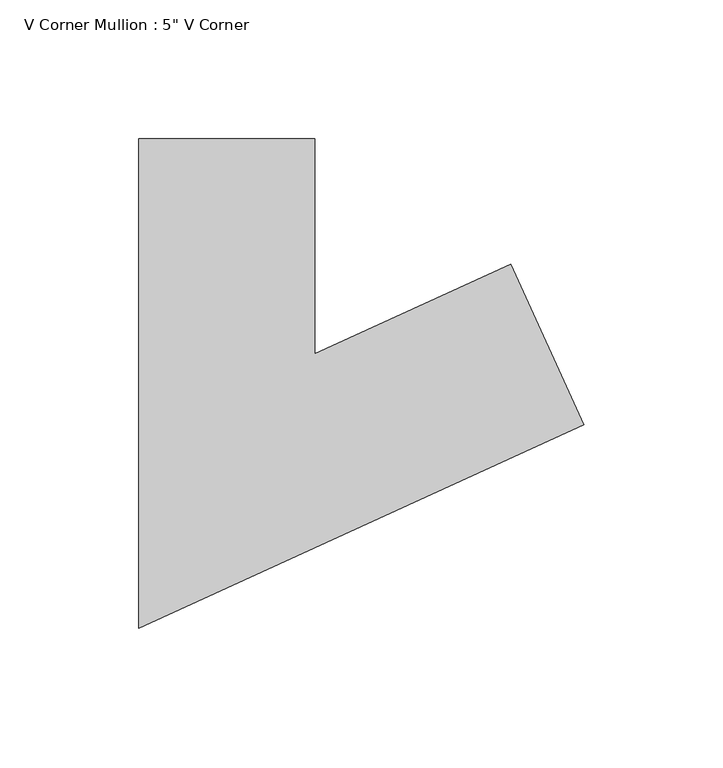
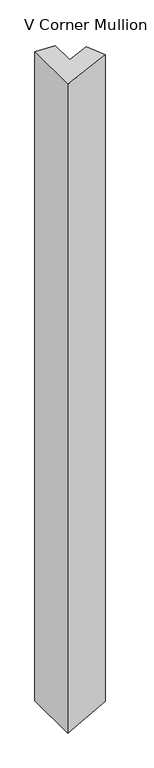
"""IFC4 building model written with IfcOpenShell, lengths in millimetres: member geometry."""

from ifc_helpers import new_model, si_unit, origin, place, context, project, spatial, faceted_brep, source, transform, mapped, element, save


def member_bca03e0c(model_context):
    return source(origin(), model_context, "Body", "Brep", [
        faceted_brep([(61.49523, 18.2208415, -1.1214573), (87.9205542, -39.5195451, -1.6033625), (87.9205542, -39.5195451, -2130.933962), (61.49523, 18.2208415, -2131.7525854), (-9.0228811, -14.0523047, 0.1645457), (-9.0228811, -14.0523047, -2133.9371479), (-9.0228811, 63.5, 0.1645457), (-9.0228811, 63.5, -2133.9371479), (-72.5228811, 63.5, 1.3225629), (-72.5228811, 63.5, -2135.9042982), (-72.5228811, -112.9476953, 1.3225629), (-72.5228811, -112.9476953, -2135.9042982)], [[[0, 1, 2, 3]], [[4, 0, 3, 5]], [[6, 4, 5, 7]], [[8, 6, 7, 9]], [[10, 8, 9, 11]], [[1, 10, 11, 2]], [[1, 0, 4, 6, 8, 10]], [[2, 11, 9, 7, 5, 3]]]),
    ])


if __name__ == "__main__":
    model = new_model("IFC4")
    model_context = context("Model", 3, world=origin())
    ifc_project = project(units=[si_unit("LENGTHUNIT", "METRE", prefix="MILLI")], contexts=[model_context])
    site = spatial("IfcSite", under=ifc_project)
    building = spatial("IfcBuilding", under=site)
    placement = place(None, origin())
    member_shape = member_bca03e0c(model_context)
    element("IfcMember", 1, ObjectType="V Corner Mullion : 5\" V Corner", at=placement, inside=building, context=model_context, shape_type="MappedRepresentation", body=[
        mapped(member_shape, transform((0.0, 0.0, 0.0), x_axis=(1.0, 0.0, 0.0), y_axis=(0.0, 1.0, 0.0), z_axis=(0.0, 0.0, 1.0))),
    ])
    save(model, "model.ifc")
